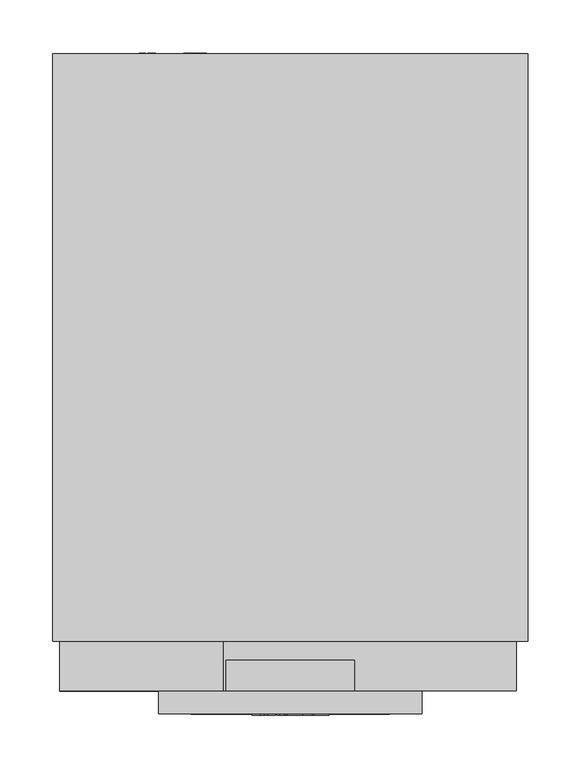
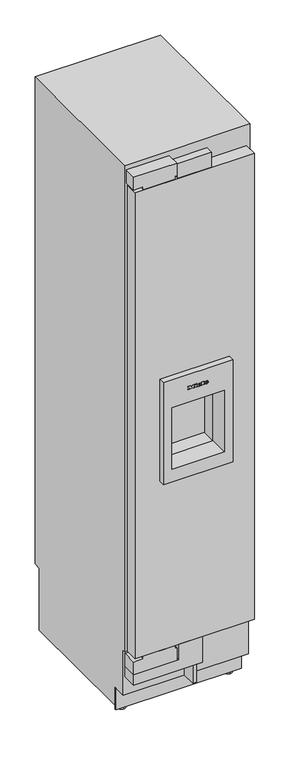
"""IFC4 building model written with IfcOpenShell, lengths in millimetres: proxy geometry, 11503430_USA_F2472Vi : 37247201_USA_11503430_F2472Vi."""

import ifcopenshell
import ifcopenshell.guid

model = None  # the IFC model being written
_history = None  # IfcOwnerHistory: only IFC2X3 demands one
_inside = {}  # id of a spatial element -> (the spatial element, [elements in it])
_under = {}  # id of a project, library or spatial element -> (it, [spatial elements below it])
_declared = {}  # id of a project -> (the project, [libraries it declares])
_typed = {}  # id of a type object -> (the type object, [elements of that type])
_made_of = {}  # id of a material, layer set ... -> (it, [elements and type objects made of it])


def new_model(schema):
    """Start an empty IFC model of exactly this schema.

    Asked for "IFC4X3", IfcOpenShell would pick the latest addendum, in which some entities
    have other attributes; the version numbers below select the first issue.
    IFC2X3 requires an IfcOwnerHistory on every rooted entity: one is made here for all.
    """
    global model, _history
    if schema == "IFC4X3":
        model = ifcopenshell.file(schema_version=(4, 3, 0, 0))
    else:
        model = ifcopenshell.file(schema=schema)
    _inside.clear()
    _under.clear()
    _declared.clear()
    _typed.clear()
    _made_of.clear()
    _history = None
    if model.schema == "IFC2X3":
        org = make("IfcOrganization", Name="unknown")
        user = make(
            "IfcPersonAndOrganization",
            ThePerson=make("IfcPerson", FamilyName="unknown"),
            TheOrganization=org,
        )
        app = make(
            "IfcApplication",
            ApplicationDeveloper=org,
            Version="unknown",
            ApplicationFullName="unknown",
            ApplicationIdentifier="unknown",
        )
        _history = make(
            "IfcOwnerHistory",
            OwningUser=user,
            OwningApplication=app,
            ChangeAction="ADDED",
            CreationDate=0,
        )
    return model


def make(cls, **values):
    """One entity of the class cls with the attributes given. An attribute that is None is left unset."""
    return model.create_entity(
        cls, **{name: value for name, value in values.items() if value is not None}
    )


def rooted(cls, **values):
    """An entity with a GlobalId (a new one), such as an element, a storey or a relation."""
    return make(cls, GlobalId=ifcopenshell.guid.new(), OwnerHistory=_history, **values)


def si_unit(unit_type, name, prefix=None):
    """IfcSIUnit, for example si_unit("LENGTHUNIT", "METRE", prefix="MILLI")."""
    return make("IfcSIUnit", UnitType=unit_type, Prefix=prefix, Name=name)


def assignment(units):
    """IfcUnitAssignment: the units of a project."""
    return None if units is None else make("IfcUnitAssignment", Units=units)


def point(xyz):
    """IfcCartesianPoint."""
    return None if xyz is None else make("IfcCartesianPoint", Coordinates=xyz)


def direction(xyz):
    """IfcDirection."""
    return None if xyz is None else make("IfcDirection", DirectionRatios=xyz)


def frame(location, z_axis=None, x_axis=None):
    """IfcAxis2Placement3D, a coordinate frame: its origin and axes. An axis left out is left unset."""
    return make(
        "IfcAxis2Placement3D",
        Location=point(location),
        Axis=direction(z_axis),
        RefDirection=direction(x_axis),
    )


def frame_2d(location, x_axis=None):
    """IfcAxis2Placement2D, a coordinate frame in the plane: its origin and x axis."""
    return make(
        "IfcAxis2Placement2D", Location=point(location), RefDirection=direction(x_axis)
    )


def origin():
    """The frame at (0, 0, 0) with its axes left unset."""
    return frame((0.0, 0.0, 0.0))


def place(relative_to, where):
    """IfcLocalPlacement: puts the frame where relative to a parent placement (None: the world)."""
    return make(
        "IfcLocalPlacement", PlacementRelTo=relative_to, RelativePlacement=where
    )


def context(
    kind, dimensions, precision=None, world=None, true_north=None, identifier=None
):
    """IfcGeometricRepresentationContext, for example the 3D "Model" context."""
    return make(
        "IfcGeometricRepresentationContext",
        ContextIdentifier=identifier,
        ContextType=kind,
        CoordinateSpaceDimension=dimensions,
        Precision=precision,
        WorldCoordinateSystem=world,
        TrueNorth=true_north,
    )


def project(units=None, contexts=None):
    """IfcProject with its units and contexts."""
    return rooted(
        "IfcProject",
        Name="project",
        RepresentationContexts=contexts,
        UnitsInContext=assignment(units),
    )


def spatial(cls, under=None, at=None, **own):
    """A site, building, storey or space (cls), placed at a placement, below another one or the project."""
    s = rooted(cls, ObjectPlacement=at, **own)
    if under is not None:
        _under.setdefault(under.id(), (under, []))[1].append(s)
    return s


def polyline(points):
    """IfcPolyline through the points."""
    return make("IfcPolyline", Points=[point(p) for p in points])


def circle_curve(where, radius):
    """IfcCircle in the frame where."""
    return make("IfcCircle", Position=where, Radius=radius)


def ellipse_curve(where, semi_axis1, semi_axis2):
    """IfcEllipse in the frame where."""
    return make(
        "IfcEllipse", Position=where, SemiAxis1=semi_axis1, SemiAxis2=semi_axis2
    )


def trimmed(basis, trim1, trim2, sense, master):
    """IfcTrimmedCurve: the piece of a basis curve between two trims."""
    return make(
        "IfcTrimmedCurve",
        BasisCurve=basis,
        Trim1=trim1,
        Trim2=trim2,
        SenseAgreement=sense,
        MasterRepresentation=master,
    )


def segment(curve, same_sense, transition):
    """IfcCompositeCurveSegment."""
    return make(
        "IfcCompositeCurveSegment",
        Transition=transition,
        SameSense=same_sense,
        ParentCurve=curve,
    )


def composite_curve(segments, self_intersect=None):
    """IfcCompositeCurve: segments joined end to end."""
    return make("IfcCompositeCurve", Segments=segments, SelfIntersect=self_intersect)


def outline(outer, holes=None, kind="AREA"):
    """IfcArbitraryClosedProfileDef: a profile drawn as a closed curve; with holes, ...WithVoids."""
    if holes is None:
        return make("IfcArbitraryClosedProfileDef", ProfileType=kind, OuterCurve=outer)
    return make(
        "IfcArbitraryProfileDefWithVoids",
        ProfileType=kind,
        OuterCurve=outer,
        InnerCurves=holes,
    )


def extrude(swept, where, along, depth):
    """IfcExtrudedAreaSolid: the profile swept, set in the frame where, extruded along a direction by depth."""
    return make(
        "IfcExtrudedAreaSolid",
        SweptArea=swept,
        Position=where,
        ExtrudedDirection=direction(along),
        Depth=depth,
    )


def faces_of(points, faces, orient=None, outer=None):
    """IfcFace entities. A face is a list of loops; a loop is a list of indices into points, from 0.

    orient and outer hold one flag for each loop. By default every Orientation is true, the
    first loop of a face is its IfcFaceOuterBound and the others are IfcFaceBound.
    """
    made = []
    for i, loops in enumerate(faces):
        bounds = []
        for j, loop in enumerate(loops):
            is_outer = j == 0 if outer is None else outer[i][j]
            bounds.append(
                make(
                    "IfcFaceOuterBound" if is_outer else "IfcFaceBound",
                    Bound=make("IfcPolyLoop", Polygon=[points[k] for k in loop]),
                    Orientation=True if orient is None else orient[i][j],
                )
            )
        made.append(make("IfcFace", Bounds=bounds))
    return made


def faceted_brep(points, faces, orient=None, outer=None, voids=None):
    """IfcFacetedBrep: a solid bounded by flat faces; with voids (closed shells), ...WithVoids."""
    shared = [point(p) for p in points]
    hull = make("IfcClosedShell", CfsFaces=faces_of(shared, faces, orient, outer))
    if voids is None:
        return make("IfcFacetedBrep", Outer=hull)
    return make(
        "IfcFacetedBrepWithVoids",
        Outer=hull,
        Voids=[
            make(cls, CfsFaces=faces_of(shared, fs, o, b)) for cls, fs, o, b in voids
        ],
    )


def shape(context_of_items, identifier, shape_type, items):
    """IfcShapeRepresentation: the items that make up one representation, for example the "Body"."""
    return make(
        "IfcShapeRepresentation",
        ContextOfItems=context_of_items,
        RepresentationIdentifier=identifier,
        RepresentationType=shape_type,
        Items=items,
    )


def source(mapping_origin, context_of_items, identifier, shape_type, items):
    """IfcRepresentationMap: a shape defined once, which mapped items show again and again."""
    return make(
        "IfcRepresentationMap",
        MappingOrigin=mapping_origin,
        MappedRepresentation=shape(context_of_items, identifier, shape_type, items),
    )


def transform(
    local_origin,
    x_axis=None,
    y_axis=None,
    z_axis=None,
    scale=None,
    scale2=None,
    scale3=None,
    uniform=True,
):
    """IfcCartesianTransformationOperator3D, or its non-uniform kind. x_axis, y_axis, z_axis: its Axis1, 2, 3."""
    if uniform:
        return make(
            "IfcCartesianTransformationOperator3D",
            Axis1=direction(x_axis),
            Axis2=direction(y_axis),
            LocalOrigin=point(local_origin),
            Scale=scale,
            Axis3=direction(z_axis),
        )
    return make(
        "IfcCartesianTransformationOperator3DnonUniform",
        Axis1=direction(x_axis),
        Axis2=direction(y_axis),
        LocalOrigin=point(local_origin),
        Scale=scale,
        Axis3=direction(z_axis),
        Scale2=scale2,
        Scale3=scale3,
    )


def mapped(mapping_source, mapping_target):
    """IfcMappedItem: shows the shape of a source again, moved by a transform."""
    return make(
        "IfcMappedItem", MappingSource=mapping_source, MappingTarget=mapping_target
    )


def made_of(thing, what):
    """Note that an element or type object is made of a material, layer set ...; save() writes the relation."""
    if what is not None:
        _made_of.setdefault(what.id(), (what, []))[1].append(thing)
    return thing


def element(
    cls,
    number,
    at=None,
    inside=None,
    cuts=None,
    type_object=None,
    material=None,
    context=None,
    identifier="Body",
    shape_type=None,
    held_by="IfcProductDefinitionShape",
    body=None,
    shapes=None,
    **own,
):
    """One element of the class cls, such as IfcWall. Its Tag is "e" and its number.

    at: its placement. inside: the storey or other place that contains it. cuts: it is an
    opening in that element (IfcRelVoidsElement). A single representation is given by context,
    identifier, shape_type and body (its items); several are given by shapes. held_by: the class
    of the entity that holds the representations. save() writes the other relations.
    """
    e = rooted(cls, Tag="e%d" % number, ObjectPlacement=at, **own)
    if body is not None:
        shapes = [shape(context, identifier, shape_type, body)]
    if shapes is not None:
        e.Representation = make(held_by, Representations=shapes)
    if inside is not None:
        _inside.setdefault(inside.id(), (inside, []))[1].append(e)
    if cuts is not None:
        rooted(
            "IfcRelVoidsElement", RelatingBuildingElement=cuts, RelatedOpeningElement=e
        )
    if type_object is not None:
        _typed.setdefault(type_object.id(), (type_object, []))[1].append(e)
    return made_of(e, material)


def aggregate(whole, parts):
    """IfcRelAggregates: a whole, such as a stair, and the parts it consists of."""
    return rooted("IfcRelAggregates", RelatingObject=whole, RelatedObjects=parts)


def save(model, path):
    """Write the relations noted so far, then the file.

    IfcRelAggregates (storeys below a building ...), IfcRelContainedInSpatialStructure (elements
    in a storey), IfcRelDefinesByType, IfcRelAssociatesMaterial and IfcRelDeclares: one each for
    every whole, place, type object, material and project.
    """
    for whole, parts in _under.values():
        aggregate(whole, parts)
    for where, things in _inside.values():
        rooted(
            "IfcRelContainedInSpatialStructure",
            RelatedElements=things,
            RelatingStructure=where,
        )
    for kind, things in _typed.values():
        rooted("IfcRelDefinesByType", RelatedObjects=things, RelatingType=kind)
    for what, things in _made_of.values():
        rooted("IfcRelAssociatesMaterial", RelatedObjects=things, RelatingMaterial=what)
    for by, libraries in _declared.values():
        rooted("IfcRelDeclares", RelatingContext=by, RelatedDefinitions=libraries)
    model.write(path)


def plane_surface(at):
    """IfcPlane: the flat surface through the origin of the frame at, square to its z axis."""
    return make("IfcPlane", Position=at)


def cylinder_surface(at, radius):
    """IfcCylindricalSurface: all points at the distance radius from the z axis of the frame at."""
    return make("IfcCylindricalSurface", Position=at, Radius=radius)


def revolved_surface(curve, axis_point, axis_direction):
    """IfcSurfaceOfRevolution: the curve turned about the line through axis_point along axis_direction."""
    return make(
        "IfcSurfaceOfRevolution",
        SweptCurve=make("IfcArbitraryOpenProfileDef", ProfileType="CURVE", Curve=curve),
        AxisPosition=make("IfcAxis1Placement", Location=point(axis_point), Axis=direction(axis_direction)),
    )


def extruded_surface(curve, direction_of_extrusion, depth):
    """IfcSurfaceOfLinearExtrusion: the curve pushed along a direction by depth."""
    return make(
        "IfcSurfaceOfLinearExtrusion",
        SweptCurve=make("IfcArbitraryOpenProfileDef", ProfileType="CURVE", Curve=curve),
        ExtrudedDirection=direction(direction_of_extrusion),
        Depth=depth,
    )


def advanced_brep(points, edges, surfaces, faces):
    """IfcAdvancedBrep: a solid bounded by faces that lie on surfaces and meet in shared edges.

    An edge is (start, end): straight between two places in points (the first is 0);
    or (start, end, curve); or (start, end, curve, False) where it runs against its curve.
    A face is (place in surfaces, loops), or (place, loops, False) where it looks against
    its surface's normal. A loop lists edges by number (the first is 1), with a minus sign
    where the edge is run from its end to its start. The first loop is the outer one.
    """
    corners = [point(p) for p in points]
    vertices = [make("IfcVertexPoint", VertexGeometry=c) for c in corners]
    made = []
    for start, end, *more in edges:
        made.append(
            make(
                "IfcEdgeCurve",
                EdgeStart=vertices[start],
                EdgeEnd=vertices[end],
                EdgeGeometry=more[0] if more else make("IfcPolyline", Points=[corners[start], corners[end]]),
                SameSense=more[1] if len(more) > 1 else True,
            )
        )
    hull = []
    for where, loops, *sense in faces:
        bounds = []
        for j, loop in enumerate(loops):
            ring = [make("IfcOrientedEdge", EdgeElement=made[abs(k) - 1], Orientation=k > 0) for k in loop]
            bounds.append(
                make(
                    "IfcFaceOuterBound" if j == 0 else "IfcFaceBound",
                    Bound=make("IfcEdgeLoop", EdgeList=ring),
                    Orientation=True,
                )
            )
        hull.append(make("IfcAdvancedFace", Bounds=bounds, FaceSurface=surfaces[where], SameSense=sense[0] if sense else True))
    return make("IfcAdvancedBrep", Outer=make("IfcClosedShell", CfsFaces=hull))


def specialty_equipment_33c10941(model_context):
    return source(origin(), model_context, "Body", "SolidModel", [
        extrude(outline(polyline([(-6.5, 54.0), (6.5, 54.0), (6.5, 0.0), (-6.5, 0.0), (-6.5, 54.0)])), frame((0.0, 0.0, 99.0), z_axis=(0.0, 0.0, 1.0), x_axis=(1.0, 0.0, 0.0)), (0.0, 0.0, 1.0), 67.0),
        faceted_brep([(125.0, -21.7, 1295.0), (-125.0, -21.7, 1295.0), (-125.0, -21.7, 908.0), (125.0, -21.7, 908.0), (94.0, -21.7, 1190.0), (94.0, -21.7, 956.0), (-94.0, -21.7, 956.0), (-94.0, -21.7, 1190.0), (125.0, 47.0, 1295.0), (125.0, 47.0, 908.0), (-125.0, 47.0, 908.0), (-125.0, 47.0, 1295.0), (94.0, 47.0, 1190.0), (-94.0, 47.0, 1190.0), (-94.0, 47.0, 956.0), (94.0, 47.0, 956.0), (-94.0, -11.7943775, 1190.0), (94.0, -11.7943775, 1190.0), (-94.0, -11.7943775, 956.0), (94.0, -11.7943775, 956.0)], [[[0, 1, 2, 3], [4, 5, 6, 7]], [[8, 9, 10, 11], [12, 13, 14, 15]], [[0, 3, 9, 8]], [[3, 2, 10, 9]], [[2, 1, 11, 10]], [[1, 0, 8, 11]], [[4, 7, 16, 13, 12, 17]], [[7, 6, 18, 14, 13, 16]], [[6, 5, 19, 15, 14, 18]], [[5, 4, 17, 12, 15, 19]]]),
        extrude(outline(polyline([(2036.0, 214.5), (2036.0, -214.5), (265.0, -214.5), (265.0, 214.5), (2036.0, 214.5)]), holes=[polyline([(1295.0, 125.0), (908.0, 125.0), (908.0, -125.0), (1295.0, -125.0), (1295.0, 125.0)])]), frame((0.0, 0.0, 0.0), z_axis=(0.0, 1.0, 0.0), x_axis=(0.0, 0.0, 1.0)), (0.0, 0.0, 1.0), 47.0),
        faceted_brep([(-158.0, 47.0, 863.0), (-158.0, 47.0, 1335.0), (-158.0, 239.0, 1335.0), (-158.0, 239.0, 987.0), (-158.0, 140.0, 863.0), (158.0, 47.0, 863.0), (158.0, 140.0, 863.0), (158.0, 239.0, 987.0), (158.0, 239.0, 1335.0), (158.0, 47.0, 1335.0), (94.0, 47.0, 1190.0), (94.0, 47.0, 956.0), (-94.0, 47.0, 956.0), (-94.0, 47.0, 1190.0), (94.0, 100.0, 1190.0), (-94.0, 100.0, 1190.0), (-94.0, 100.0, 956.0), (94.0, 100.0, 956.0)], [[[0, 1, 2, 3, 4]], [[5, 6, 7, 8, 9]], [[0, 4, 6, 5]], [[4, 3, 7, 6]], [[3, 2, 8, 7]], [[2, 1, 9, 8]], [[1, 0, 5, 9], [10, 11, 12, 13]], [[14, 15, 16, 17]], [[14, 17, 11, 10]], [[17, 16, 12, 11]], [[16, 15, 13, 12]], [[15, 14, 10, 13]]]),
        extrude(outline(polyline([(-61.0, 29.0), (61.0, 29.0), (61.0, 0.0), (-61.0, 0.0), (-61.0, 29.0)])), frame((0.0, 0.0, 2036.0), z_axis=(0.0, 0.0, 1.0), x_axis=(1.0, 0.0, 0.0)), (0.0, 0.0, 1.0), 56.0),
        advanced_brep(
        [(28.472, -22.7, 1241.344), (28.472, -22.7, 1242.556), (36.5, -22.7, 1242.556), (22.532, -22.7, 1242.556), (25.832, -22.7, 1238.5), (36.296, -22.7, 1241.344), (32.672, -22.7, 1241.344), (29.816, -22.7, 1240.0), (28.472, -22.7, 1244.092), (28.472, -22.7, 1245.4), (30.524, -22.7, 1245.4), (30.524, -22.7, 1244.092), (28.472, -21.7, 1241.344), (29.816, -21.7, 1240.0), (32.672, -21.7, 1241.344), (36.296, -21.7, 1241.344), (25.832, -21.7, 1238.5), (22.532, -21.7, 1242.556), (36.5, -21.7, 1242.556), (28.472, -21.7, 1242.556), (28.472, -21.7, 1244.092), (30.524, -21.7, 1244.092), (30.524, -21.7, 1245.4), (28.472, -21.7, 1245.4)],
        [
            (0, 1),
            (1, 2),
            (2, 3, ellipse_curve(frame((29.516, -22.7, 1242.556), z_axis=(0.0, -1.0, 0.0), x_axis=(-1.0, 0.0, 0.0)), 6.984, 5.772)),
            (3, 4, circle_curve(frame((27.1760655, -22.7, 1242.964), z_axis=(0.0, -1.0, 0.0), x_axis=(0.0, 0.0, -1.0)), 4.6619532)),
            (4, 5, circle_curve(frame((29.3761904, -22.7, 1246.132), z_axis=(0.0, -1.0, 0.0), x_axis=(0.0, 0.0, -1.0)), 8.4147911)),
            (5, 6),
            (6, 7, circle_curve(frame((30.4025882, -22.7, 1242.46), z_axis=(0.0, 1.0, 0.0), x_axis=(0.0, 0.0, -1.0)), 2.5289693)),
            (7, 0, circle_curve(frame((29.816, -22.7, 1241.344), z_axis=(0.0, 1.0, 0.0), x_axis=(0.0, 0.0, -1.0)), 1.344)),
            (8, 9),
            (9, 10, circle_curve(frame((29.498, -22.7, 1245.4), z_axis=(0.0, 1.0, 0.0), x_axis=(0.0, 0.0, -1.0)), 1.026)),
            (10, 11),
            (11, 8),
            (12, 13, circle_curve(frame((29.816, -21.7, 1241.344), z_axis=(0.0, -1.0, 0.0), x_axis=(0.0, 0.0, -1.0)), 1.344)),
            (13, 14, circle_curve(frame((30.4025882, -21.7, 1242.46), z_axis=(0.0, -1.0, 0.0), x_axis=(0.0, 0.0, -1.0)), 2.5289693)),
            (14, 15),
            (15, 16, circle_curve(frame((29.3761904, -21.7, 1246.132), z_axis=(0.0, 1.0, 0.0), x_axis=(0.0, 0.0, -1.0)), 8.4147911)),
            (16, 17, circle_curve(frame((27.1760655, -21.7, 1242.964), z_axis=(0.0, 1.0, 0.0), x_axis=(0.0, 0.0, -1.0)), 4.6619532)),
            (17, 18, ellipse_curve(frame((29.516, -21.7, 1242.556), z_axis=(0.0, 1.0, 0.0), x_axis=(-1.0, 0.0, 0.0)), 6.984, 5.772)),
            (18, 19),
            (19, 12),
            (20, 21),
            (21, 22),
            (22, 23, circle_curve(frame((29.498, -21.7, 1245.4), z_axis=(0.0, -1.0, 0.0), x_axis=(0.0, 0.0, -1.0)), 1.026)),
            (23, 20),
            (0, 12),
            (19, 1),
            (18, 2),
            (5, 15),
            (14, 6),
            (17, 3),
            (13, 7),
            (16, 4),
            (8, 20),
            (23, 9),
            (22, 10),
            (21, 11),
        ],
        [
            plane_surface(frame((28.472, -22.7, 1242.556), z_axis=(0.0, -1.0, 0.0), x_axis=(0.0, 0.0, 1.0))),
            plane_surface(frame((28.472, -21.7, 1242.556), z_axis=(0.0, 1.0, 0.0), x_axis=(0.0, 0.0, -1.0))),
            plane_surface(frame((28.472, -22.7, 1241.344), z_axis=(1.0, 0.0, 0.0), x_axis=(0.0, 1.0, 0.0))),
            plane_surface(frame((28.472, -22.7, 1242.556), z_axis=(0.0, 0.0, -1.0), x_axis=(0.0, 1.0, 0.0))),
            plane_surface(frame((36.296, -22.7, 1241.344), z_axis=(0.0, 0.0, 1.0), x_axis=(0.0, 1.0, 0.0))),
            extruded_surface(trimmed(ellipse_curve(frame((29.516, -20.7, 1242.556), z_axis=(0.0, -1.0, 0.0), x_axis=(-1.0, 0.0, 0.0)), 6.984, 5.772), [point((36.5, -20.7, 1242.556))], [point((22.532, -20.7, 1242.556))], True, "CARTESIAN"), (0.0, -1.0, 0.0), 1.0),
            revolved_surface(polyline([(30.4025882, -21.7, 1239.9310307), (30.4025882, -22.7, 1239.9310307)]), (30.4025882, -21.7, 1242.46), (0.0, 1.0, 0.0)),
            revolved_surface(polyline([(29.816, -21.7, 1240.0), (29.816, -22.7, 1240.0)]), (29.816, -21.7, 1241.344), (0.0, 1.0, 0.0)),
            cylinder_surface(frame((27.1760655, -21.7, 1242.964), z_axis=(0.0, -1.0, 0.0), x_axis=(0.0, 0.0, -1.0)), 4.6619532),
            cylinder_surface(frame((29.3761904, -21.7, 1246.132), z_axis=(0.0, -1.0, 0.0), x_axis=(0.0, 0.0, -1.0)), 8.4147911),
            plane_surface(frame((28.472, -22.7, 1244.092), z_axis=(1.0, 0.0, 0.0), x_axis=(0.0, 1.0, 0.0))),
            revolved_surface(polyline([(29.498, -21.7, 1244.374), (29.498, -22.7, 1244.374)]), (29.498, -21.7, 1245.4), (0.0, 1.0, 0.0)),
            plane_surface(frame((30.524, -22.7, 1245.4), z_axis=(-1.0, 0.0, 0.0), x_axis=(0.0, 1.0, 0.0))),
            plane_surface(frame((30.524, -22.7, 1244.092), z_axis=(0.0, 0.0, 1.0), x_axis=(0.0, 1.0, 0.0))),
        ],
        [
            (0, [[1, 2, 3, 4, 5, 6, 7, 8], [9, 10, 11, 12]]),
            (1, [[13, 14, 15, 16, 17, 18, 19, 20], [21, 22, 23, 24]]),
            (2, [[-1, 25, -20, 26]]),
            (3, [[-2, -26, -19, 27]]),
            (4, [[-6, 28, -15, 29]]),
            (5, [[-3, -27, -18, 30]]),
            (6, [[-7, -29, -14, 31]]),
            (7, [[-8, -31, -13, -25]]),
            (8, [[-4, -30, -17, 32]]),
            (9, [[-5, -32, -16, -28]]),
            (10, [[-9, 33, -24, 34]]),
            (11, [[-10, -34, -23, 35]]),
            (12, [[-11, -35, -22, 36]]),
            (13, [[-12, -36, -21, -33]]),
        ],
    ),
        advanced_brep(
        [(3.428, -22.7, 1241.344), (3.428, -22.7, 1242.556), (11.456, -22.7, 1242.556), (-2.512, -22.7, 1242.556), (0.788, -22.7, 1238.5), (11.252, -22.7, 1241.344), (7.628, -22.7, 1241.344), (4.772, -22.7, 1240.0), (3.428, -22.7, 1244.092), (3.428, -22.7, 1245.4), (5.48, -22.7, 1245.4), (5.48, -22.7, 1244.092), (3.428, -21.7, 1241.344), (4.772, -21.7, 1240.0), (7.628, -21.7, 1241.344), (11.252, -21.7, 1241.344), (0.788, -21.7, 1238.5), (-2.512, -21.7, 1242.556), (11.456, -21.7, 1242.556), (3.428, -21.7, 1242.556), (3.428, -21.7, 1244.092), (5.48, -21.7, 1244.092), (5.48, -21.7, 1245.4), (3.428, -21.7, 1245.4)],
        [
            (0, 1),
            (1, 2),
            (2, 3, ellipse_curve(frame((4.472, -22.7, 1242.556), z_axis=(0.0, -1.0, 0.0), x_axis=(-1.0, 0.0, 0.0)), 6.984, 5.772)),
            (3, 4, circle_curve(frame((2.1320655, -22.7, 1242.964), z_axis=(0.0, -1.0, 0.0), x_axis=(0.0, 0.0, -1.0)), 4.6619532)),
            (4, 5, circle_curve(frame((4.3321904, -22.7, 1246.132), z_axis=(0.0, -1.0, 0.0), x_axis=(0.0, 0.0, -1.0)), 8.4147911)),
            (5, 6),
            (6, 7, circle_curve(frame((5.3585882, -22.7, 1242.46), z_axis=(0.0, 1.0, 0.0), x_axis=(0.0, 0.0, -1.0)), 2.5289693)),
            (7, 0, circle_curve(frame((4.772, -22.7, 1241.344), z_axis=(0.0, 1.0, 0.0), x_axis=(0.0, 0.0, -1.0)), 1.344)),
            (8, 9),
            (9, 10, circle_curve(frame((4.454, -22.7, 1245.4), z_axis=(0.0, 1.0, 0.0), x_axis=(0.0, 0.0, -1.0)), 1.026)),
            (10, 11),
            (11, 8),
            (12, 13, circle_curve(frame((4.772, -21.7, 1241.344), z_axis=(0.0, -1.0, 0.0), x_axis=(0.0, 0.0, -1.0)), 1.344)),
            (13, 14, circle_curve(frame((5.3585882, -21.7, 1242.46), z_axis=(0.0, -1.0, 0.0), x_axis=(0.0, 0.0, -1.0)), 2.5289693)),
            (14, 15),
            (15, 16, circle_curve(frame((4.3321904, -21.7, 1246.132), z_axis=(0.0, 1.0, 0.0), x_axis=(0.0, 0.0, -1.0)), 8.4147911)),
            (16, 17, circle_curve(frame((2.1320655, -21.7, 1242.964), z_axis=(0.0, 1.0, 0.0), x_axis=(0.0, 0.0, -1.0)), 4.6619532)),
            (17, 18, ellipse_curve(frame((4.472, -21.7, 1242.556), z_axis=(0.0, 1.0, 0.0), x_axis=(-1.0, 0.0, 0.0)), 6.984, 5.772)),
            (18, 19),
            (19, 12),
            (20, 21),
            (21, 22),
            (22, 23, circle_curve(frame((4.454, -21.7, 1245.4), z_axis=(0.0, -1.0, 0.0), x_axis=(0.0, 0.0, -1.0)), 1.026)),
            (23, 20),
            (0, 12),
            (19, 1),
            (18, 2),
            (5, 15),
            (14, 6),
            (17, 3),
            (13, 7),
            (16, 4),
            (8, 20),
            (23, 9),
            (22, 10),
            (21, 11),
        ],
        [
            plane_surface(frame((3.428, -22.7, 1242.556), z_axis=(0.0, -1.0, 0.0), x_axis=(0.0, 0.0, 1.0))),
            plane_surface(frame((3.428, -21.7, 1242.556), z_axis=(0.0, 1.0, 0.0), x_axis=(0.0, 0.0, -1.0))),
            plane_surface(frame((3.428, -22.7, 1241.344), z_axis=(1.0, 0.0, 0.0), x_axis=(0.0, 1.0, 0.0))),
            plane_surface(frame((3.428, -22.7, 1242.556), z_axis=(0.0, 0.0, -1.0), x_axis=(0.0, 1.0, 0.0))),
            plane_surface(frame((11.252, -22.7, 1241.344), z_axis=(0.0, 0.0, 1.0), x_axis=(0.0, 1.0, 0.0))),
            extruded_surface(trimmed(ellipse_curve(frame((4.472, -20.7, 1242.556), z_axis=(0.0, -1.0, 0.0), x_axis=(-1.0, 0.0, 0.0)), 6.984, 5.772), [point((11.456, -20.7, 1242.556))], [point((-2.512, -20.7, 1242.556))], True, "CARTESIAN"), (0.0, -1.0, 0.0), 1.0),
            revolved_surface(polyline([(5.3585882, -21.7, 1239.9310307), (5.3585882, -22.7, 1239.9310307)]), (5.3585882, -21.7, 1242.46), (0.0, 1.0, 0.0)),
            revolved_surface(polyline([(4.772, -21.7, 1240.0), (4.772, -22.7, 1240.0)]), (4.772, -21.7, 1241.344), (0.0, 1.0, 0.0)),
            cylinder_surface(frame((2.1320655, -21.7, 1242.964), z_axis=(0.0, -1.0, 0.0), x_axis=(0.0, 0.0, -1.0)), 4.6619532),
            cylinder_surface(frame((4.3321904, -21.7, 1246.132), z_axis=(0.0, -1.0, 0.0), x_axis=(0.0, 0.0, -1.0)), 8.4147911),
            plane_surface(frame((3.428, -22.7, 1244.092), z_axis=(1.0, 0.0, 0.0), x_axis=(0.0, 1.0, 0.0))),
            revolved_surface(polyline([(4.454, -21.7, 1244.374), (4.454, -22.7, 1244.374)]), (4.454, -21.7, 1245.4), (0.0, 1.0, 0.0)),
            plane_surface(frame((5.48, -22.7, 1245.4), z_axis=(-1.0, 0.0, 0.0), x_axis=(0.0, 1.0, 0.0))),
            plane_surface(frame((5.48, -22.7, 1244.092), z_axis=(0.0, 0.0, 1.0), x_axis=(0.0, 1.0, 0.0))),
        ],
        [
            (0, [[1, 2, 3, 4, 5, 6, 7, 8], [9, 10, 11, 12]]),
            (1, [[13, 14, 15, 16, 17, 18, 19, 20], [21, 22, 23, 24]]),
            (2, [[-1, 25, -20, 26]]),
            (3, [[-2, -26, -19, 27]]),
            (4, [[-6, 28, -15, 29]]),
            (5, [[-3, -27, -18, 30]]),
            (6, [[-7, -29, -14, 31]]),
            (7, [[-8, -31, -13, -25]]),
            (8, [[-4, -30, -17, 32]]),
            (9, [[-5, -32, -16, -28]]),
            (10, [[-9, 33, -24, 34]]),
            (11, [[-10, -34, -23, 35]]),
            (12, [[-11, -35, -22, 36]]),
            (13, [[-12, -36, -21, -33]]),
        ],
    ),
        extrude(outline(polyline([(1249.792, -9.688), (1247.848, -8.776), (1249.744, -4.708), (1251.688, -5.608), (1249.792, -9.688)])), frame((0.0, -22.7, 0.0), z_axis=(0.0, 1.0, 0.0), x_axis=(0.0, 0.0, 1.0)), (0.0, 0.0, 1.0), 1.0),
        extrude(outline(polyline([(1247.584, -12.652), (1245.436, -12.652), (1245.436, -11.224), (1240.516, -11.224), (1240.516, -12.652), (1238.5, -12.652), (1238.5, -3.184), (1240.516, -3.184), (1240.516, -4.576), (1247.584, -4.576), (1247.584, -12.652)])), frame((0.0, -22.7, 0.0), z_axis=(0.0, 1.0, 0.0), x_axis=(0.0, 0.0, 1.0)), (0.0, 0.0, 1.0), 1.0),
        extrude(outline(polyline([(1248.544, 12.128), (1248.544, 13.568), (1240.516, 13.568), (1240.516, 12.128), (1238.5, 12.128), (1238.5, 21.86), (1240.516, 21.86), (1240.516, 20.384), (1250.5, 20.384), (1250.5, 12.128), (1248.544, 12.128)])), frame((0.0, -22.7, 0.0), z_axis=(0.0, 1.0, 0.0), x_axis=(0.0, 0.0, 1.0)), (0.0, 0.0, 1.0), 1.0),
        extrude(outline(polyline([(1248.544, -36.568), (1248.544, -35.116), (1240.516, -35.116), (1240.516, -36.568), (1238.5, -36.568), (1238.5, -31.288), (1240.516, -31.288), (1240.516, -32.728), (1245.5951247, -32.728), (1238.5, -27.364), (1245.8152223, -21.976), (1240.516, -21.976), (1240.516, -23.452), (1238.5, -23.452), (1238.5, -13.876), (1240.516, -13.876), (1240.516, -15.4), (1248.544, -15.4), (1248.544, -13.876), (1250.5, -13.876), (1250.5, -21.184), (1246.0, -24.688), (1250.5, -28.204), (1250.5, -36.568), (1248.544, -36.568)])), frame((0.0, -22.7, 0.0), z_axis=(0.0, 1.0, 0.0), x_axis=(0.0, 0.0, 1.0)), (0.0, 0.0, 1.0), 1.0),
        extrude(outline(polyline([(519.0, 1998.0), (519.0, 1799.0), (447.0526316, 1799.0), (422.0, 1867.0), (201.7448904, 1867.0), (157.0, 1939.0), (87.0, 1949.0), (87.0, 1998.0), (519.0, 1998.0)])), frame((-179.5, 0.0, 0.0), z_axis=(1.0, 0.0, 0.0), x_axis=(0.0, 1.0, 0.0)), (0.0, 0.0, 1.0), 359.0),
        extrude(outline(polyline([(196.9886114, 1875.0), (195.809433, 1875.0), (158.6921935, 1934.4), (159.8713719, 1934.4), (196.9886114, 1875.0)])), frame((-69.0, 0.0, 0.0), z_axis=(1.0, 0.0, 0.0), x_axis=(0.0, 1.0, 0.0)), (0.0, 0.0, 1.0), 138.0),
        extrude(outline(polyline([(46.0510837, -89.101717), (37.4134902, -91.1745179), (46.0453554, -93.6868463), (46.0453554, -95.5601414), (37.4089549, -98.0799633), (46.0493903, -100.1581876), (46.0493903, -101.4649805), (36.0005458, -98.7156324), (36.0005458, -97.372208), (44.8261022, -94.6342221), (35.9987467, -92.0620509), (35.9987287, -90.5451466), (46.0510837, -87.800191), (46.0510837, -89.101717)])), frame((0.0, 604.0, 0.0), z_axis=(0.0, 1.0, 0.0), x_axis=(0.0, 0.0, 1.0)), (0.0, 0.0, 1.0), 1.0),
        extrude(outline(polyline([(46.0485238, -80.7401503), (41.1363122, -80.7401503), (46.0468162, -85.884602), (46.0468162, -87.6328316), (41.9156889, -83.3260313), (36.000035, -87.8032231), (36.000035, -86.2795519), (41.0742849, -82.4391666), (39.4525334, -80.7395503), (35.9999292, -80.7395503), (35.9999292, -79.4795491), (46.0485238, -79.4795491), (46.0485238, -80.7401503)])), frame((0.0, 604.0, 0.0), z_axis=(0.0, 1.0, 0.0), x_axis=(0.0, 0.0, 1.0)), (0.0, 0.0, 1.0), 1.0),
        extrude(outline(composite_curve([segment(trimmed(circle_curve(frame_2d((41.0, -90.0)), 7.5), [point((33.5, -90.0))], [point((48.5, -90.0))], False, "CARTESIAN"), True, "CONTINUOUS"), segment(trimmed(circle_curve(frame_2d((41.0, -90.0)), 7.5), [point((48.5, -90.0))], [point((33.5, -90.0))], False, "CARTESIAN"), True, "CONTINUOUS")], self_intersect=False)), frame((0.0, 577.0, 0.0), z_axis=(0.0, 1.0, 0.0), x_axis=(0.0, 0.0, 1.0)), (0.0, 0.0, 1.0), 27.0),
        extrude(outline(polyline([(2095.0, -219.0), (2047.0, -219.0), (2047.0, -185.0), (2036.5, -185.0), (2036.5, -70.0), (2047.0, -70.0), (2047.0, -64.0), (2095.0, -64.0), (2095.0, -219.0)])), frame((0.0, 0.0, 0.0), z_axis=(0.0, 1.0, 0.0), x_axis=(0.0, 0.0, 1.0)), (0.0, 0.0, 1.0), 47.0),
        extrude(outline(polyline([(254.0, -219.0), (206.0, -219.0), (206.0, -64.0), (254.0, -64.0), (254.0, -70.0), (264.0, -70.0), (264.0, -185.0), (254.0, -185.0), (254.0, -219.0)])), frame((0.0, 0.0, 0.0), z_axis=(0.0, 1.0, 0.0), x_axis=(0.0, 0.0, 1.0)), (0.0, 0.0, 1.0), 54.0),
        extrude(outline(polyline([(265.0, -55.5), (205.0, -55.5), (205.0, -219.0), (166.0, -219.0), (166.0, 28.5), (265.0, 28.5), (265.0, -55.5)])), frame((0.0, 0.0, 0.0), z_axis=(0.0, 1.0, 0.0), x_axis=(0.0, 0.0, 1.0)), (0.0, 0.0, 1.0), 54.0),
        extrude(outline(polyline([(99.0373308, -135.2645771), (97.7615342, -135.2645771), (97.7615342, -129.3195541), (94.7968516, -129.3195541), (94.7968516, -134.969579), (93.5246295, -134.969579), (93.5246295, -129.3415693), (90.2570046, -129.3415693), (90.2570046, -135.4619689), (88.9546219, -135.4619689), (88.9546219, -128.0443524), (99.0373308, -128.0443524), (99.0373308, -135.2645771)])), frame((0.0, 604.0, 0.0), z_axis=(0.0, 1.0, 0.0), x_axis=(0.0, 0.0, 1.0)), (0.0, 0.0, 1.0), 1.0),
        extrude(outline(polyline([(99.0458, -138.5619704), (90.2663944, -138.5619704), (90.2663944, -143.6145879), (89.0134802, -143.6145879), (89.0134802, -137.3423809), (99.0458, -137.3423809), (99.0458, -138.5619704)])), frame((0.0, 604.0, 0.0), z_axis=(0.0, 1.0, 0.0), x_axis=(0.0, 0.0, 1.0)), (0.0, 0.0, 1.0), 1.0),
        extrude(outline(composite_curve([segment(trimmed(circle_curve(frame_2d((94.0, -135.5)), 7.5), [point((86.5, -135.5))], [point((101.5, -135.5))], False, "CARTESIAN"), True, "CONTINUOUS"), segment(trimmed(circle_curve(frame_2d((94.0, -135.5)), 7.5), [point((101.5, -135.5))], [point((86.5, -135.5))], False, "CARTESIAN"), True, "CONTINUOUS")], self_intersect=False)), frame((0.0, 577.0, 0.0), z_axis=(0.0, 1.0, 0.0), x_axis=(0.0, 0.0, 1.0)), (0.0, 0.0, 1.0), 27.0),
        extrude(outline(polyline([(-225.5, 104.0), (225.5, 104.0), (225.5, 99.0), (-225.5, 99.0), (-225.5, 104.0)])), frame((0.0, 0.0, 14.0), z_axis=(0.0, 0.0, 1.0), x_axis=(1.0, 0.0, 0.0)), (0.0, 0.0, 1.0), 83.0),
        advanced_brep(
        [(-191.5, 139.0, 0.0), (-191.5, 109.0, 0.0), (-191.5, 139.0, 7.0), (-191.5, 109.0, 7.0), (-191.5, 128.7, 7.0), (-191.5, 119.3, 7.0), (-191.5, 128.7, 28.0), (-191.5, 119.3, 28.0)],
        [
            (0, 1, circle_curve(frame((-191.5, 124.0, 0.0), z_axis=(0.0, 0.0, -1.0), x_axis=(1.0, 0.0, 0.0)), 15.0)),
            (1, 0, circle_curve(frame((-191.5, 124.0, 0.0), z_axis=(0.0, 0.0, -1.0), x_axis=(1.0, 0.0, 0.0)), 15.0)),
            (2, 3, circle_curve(frame((-191.5, 124.0, 7.0), z_axis=(0.0, 0.0, 1.0), x_axis=(1.0, 0.0, 0.0)), 15.0)),
            (3, 2, circle_curve(frame((-191.5, 124.0, 7.0), z_axis=(0.0, 0.0, 1.0), x_axis=(1.0, 0.0, 0.0)), 15.0)),
            (4, 5, circle_curve(frame((-191.5, 124.0, 7.0), z_axis=(0.0, 0.0, -1.0), x_axis=(0.0, -1.0, 0.0)), 4.7)),
            (5, 4, circle_curve(frame((-191.5, 124.0, 7.0), z_axis=(0.0, 0.0, -1.0), x_axis=(0.0, -1.0, 0.0)), 4.7)),
            (0, 2),
            (3, 1),
            (6, 7, circle_curve(frame((-191.5, 124.0, 28.0), z_axis=(0.0, 0.0, 1.0), x_axis=(0.0, -1.0, 0.0)), 4.7)),
            (7, 6, circle_curve(frame((-191.5, 124.0, 28.0), z_axis=(0.0, 0.0, 1.0), x_axis=(0.0, -1.0, 0.0)), 4.7)),
            (7, 5),
            (4, 6),
        ],
        [
            plane_surface(frame((-176.5, 124.0, 0.0), z_axis=(0.0, 0.0, -1.0), x_axis=(0.0, -1.0, 0.0))),
            plane_surface(frame((-176.5, 124.0, 7.0), z_axis=(0.0, 0.0, 1.0), x_axis=(0.0, 1.0, 0.0))),
            cylinder_surface(frame((-191.5, 124.0, 7.0), z_axis=(0.0, 0.0, -1.0), x_axis=(1.0, 0.0, 0.0)), 15.0),
            plane_surface(frame((-191.5, 119.3, 28.0), z_axis=(0.0, 0.0, 1.0), x_axis=(1.0, 0.0, 0.0))),
            cylinder_surface(frame((-191.5, 124.0, 28.0), z_axis=(0.0, 0.0, -1.0), x_axis=(0.0, -1.0, 0.0)), 4.7),
        ],
        [
            (0, [[1, 2]]),
            (1, [[3, 4], [5, 6]]),
            (2, [[-1, 7, -4, 8]]),
            (2, [[-2, -8, -3, -7]]),
            (3, [[9, 10]]),
            (4, [[-10, 11, -5, 12]]),
            (4, [[-9, -12, -6, -11]]),
        ],
    ),
        advanced_brep(
        [(191.5, 139.0, 0.0), (191.5, 109.0, 0.0), (191.5, 139.0, 7.0), (191.5, 109.0, 7.0), (191.5, 128.7, 7.0), (191.5, 119.3, 7.0), (191.5, 128.7, 28.0), (191.5, 119.3, 28.0)],
        [
            (0, 1, circle_curve(frame((191.5, 124.0, 0.0), z_axis=(0.0, 0.0, -1.0), x_axis=(1.0, 0.0, 0.0)), 15.0)),
            (1, 0, circle_curve(frame((191.5, 124.0, 0.0), z_axis=(0.0, 0.0, -1.0), x_axis=(1.0, 0.0, 0.0)), 15.0)),
            (2, 3, circle_curve(frame((191.5, 124.0, 7.0), z_axis=(0.0, 0.0, 1.0), x_axis=(1.0, 0.0, 0.0)), 15.0)),
            (3, 2, circle_curve(frame((191.5, 124.0, 7.0), z_axis=(0.0, 0.0, 1.0), x_axis=(1.0, 0.0, 0.0)), 15.0)),
            (4, 5, circle_curve(frame((191.5, 124.0, 7.0), z_axis=(0.0, 0.0, -1.0), x_axis=(0.0, -1.0, 0.0)), 4.7)),
            (5, 4, circle_curve(frame((191.5, 124.0, 7.0), z_axis=(0.0, 0.0, -1.0), x_axis=(0.0, -1.0, 0.0)), 4.7)),
            (0, 2),
            (3, 1),
            (6, 7, circle_curve(frame((191.5, 124.0, 28.0), z_axis=(0.0, 0.0, 1.0), x_axis=(0.0, -1.0, 0.0)), 4.7)),
            (7, 6, circle_curve(frame((191.5, 124.0, 28.0), z_axis=(0.0, 0.0, 1.0), x_axis=(0.0, -1.0, 0.0)), 4.7)),
            (7, 5),
            (4, 6),
        ],
        [
            plane_surface(frame((-176.5, 124.0, 0.0), z_axis=(0.0, 0.0, -1.0), x_axis=(0.0, -1.0, 0.0))),
            plane_surface(frame((-176.5, 124.0, 7.0), z_axis=(0.0, 0.0, 1.0), x_axis=(0.0, 1.0, 0.0))),
            cylinder_surface(frame((191.5, 124.0, 7.0), z_axis=(0.0, 0.0, -1.0), x_axis=(1.0, 0.0, 0.0)), 15.0),
            plane_surface(frame((-191.5, 119.3, 28.0), z_axis=(0.0, 0.0, 1.0), x_axis=(1.0, 0.0, 0.0))),
            cylinder_surface(frame((191.5, 124.0, 28.0), z_axis=(0.0, 0.0, -1.0), x_axis=(0.0, -1.0, 0.0)), 4.7),
        ],
        [
            (0, [[1, 2]]),
            (1, [[3, 4], [5, 6]]),
            (2, [[-1, 7, -4, 8]]),
            (2, [[-2, -8, -3, -7]]),
            (3, [[9, 10]]),
            (4, [[-10, 11, -5, 12]]),
            (4, [[-9, -12, -6, -11]]),
        ],
    ),
        advanced_brep(
        [(225.5, 47.0, 2114.0), (225.5, 47.0, 267.0), (225.5, 54.0, 267.0), (225.5, 54.0, 97.0), (225.5, 104.0, 97.0), (225.5, 104.0, 28.0), (225.5, 577.0, 28.0), (225.5, 577.0, 263.0), (225.5, 604.0, 263.0), (225.5, 604.0, 2114.0), (-225.5, 47.0, 2114.0), (-225.5, 604.0, 2114.0), (-225.5, 604.0, 263.0), (-225.5, 577.0, 263.0), (-225.5, 577.0, 28.0), (-225.5, 104.0, 28.0), (-225.5, 104.0, 97.0), (-225.5, 54.0, 97.0), (-225.5, 54.0, 267.0), (-225.5, 47.0, 267.0), (165.5, 577.0, 28.0), (165.5, 577.0, 14.0), (-165.5, 577.0, 14.0), (-165.5, 577.0, 28.0), (165.5, 104.0, 14.0), (-165.5, 104.0, 14.0), (-165.5, 104.0, 28.0), (165.5, 104.0, 28.0), (179.5, 47.0, 1998.0), (179.5, 47.0, 343.0), (-179.5, 47.0, 343.0), (-179.5, 47.0, 1998.0), (179.5, 519.0, 1998.0), (-179.5, 519.0, 1998.0), (-179.5, 519.0, 343.0), (179.5, 519.0, 343.0), (-184.0, 202.8193473, 28.0), (-203.0, 202.8193473, 28.0), (-203.0, 153.1806527, 28.0), (-184.0, 153.1806527, 28.0), (-203.5, 525.8193473, 28.0), (-203.5, 476.1806527, 28.0), (-187.5, 476.1806527, 28.0), (-187.5, 525.8193473, 28.0), (203.0, 153.1806527, 28.0), (203.0, 202.8193473, 28.0), (184.0, 202.8193473, 28.0), (184.0, 153.1806527, 28.0), (187.5, 525.8193473, 28.0), (187.5, 476.1806527, 28.0), (203.5, 476.1806527, 28.0), (203.5, 525.8193473, 28.0), (-184.0, 203.0, 25.0), (-184.0, 153.0, 25.0), (-203.0, 153.0, 25.0), (-203.0, 203.0, 25.0), (-184.0, 178.0, 25.0), (-203.0, 178.0, 25.0), (203.0, 178.0, 25.0), (203.0, 153.0, 25.0), (203.0, 203.0, 25.0), (184.0, 203.0, 25.0), (184.0, 153.0, 25.0), (184.0, 178.0, 25.0), (-203.5, 526.0, 25.0), (-203.5, 476.0, 25.0), (-203.5, 501.0, 25.0), (-187.5, 526.0, 25.0), (-187.5, 476.0, 25.0), (-187.5, 501.0, 25.0), (187.5, 526.0, 25.0), (187.5, 476.0, 25.0), (187.5, 501.0, 25.0), (203.5, 526.0, 25.0), (203.5, 476.0, 25.0), (203.5, 501.0, 25.0)],
        [
            (0, 1),
            (1, 2),
            (2, 3),
            (3, 4),
            (4, 5),
            (5, 6),
            (6, 7),
            (7, 8),
            (8, 9),
            (9, 0),
            (10, 11),
            (11, 12),
            (12, 13),
            (13, 14),
            (14, 15),
            (15, 16),
            (16, 17),
            (17, 18),
            (18, 19),
            (19, 10),
            (9, 11),
            (10, 0),
            (8, 12),
            (7, 13),
            (6, 20),
            (20, 21),
            (21, 22),
            (22, 23),
            (23, 14),
            (21, 24),
            (24, 25),
            (25, 22),
            (4, 16),
            (15, 26),
            (26, 25),
            (24, 27),
            (27, 5),
            (3, 17),
            (2, 18),
            (1, 19),
            (28, 29),
            (29, 30),
            (30, 31),
            (31, 28),
            (32, 33),
            (33, 34),
            (34, 35),
            (35, 32),
            (35, 29),
            (28, 32),
            (34, 30),
            (33, 31),
            (23, 26),
            (36, 37),
            (37, 38),
            (38, 39),
            (39, 36),
            (40, 41),
            (41, 42),
            (42, 43),
            (43, 40),
            (27, 20),
            (44, 45),
            (45, 46),
            (46, 47),
            (47, 44),
            (48, 49),
            (49, 50),
            (50, 51),
            (51, 48),
            (52, 53, circle_curve(frame((-184.0, 178.0, 25.0), z_axis=(-1.0, 0.0, 0.0), x_axis=(0.0, -1.0, 0.0)), 25.0)),
            (53, 54),
            (54, 55, circle_curve(frame((-203.0, 178.0, 25.0), z_axis=(1.0, 0.0, 0.0), x_axis=(0.0, -1.0, 0.0)), 25.0)),
            (55, 52),
            (53, 39, circle_curve(frame((-184.0, 178.0, 25.0), z_axis=(-1.0, 0.0, 0.0), x_axis=(0.0, -1.0, 0.0)), 25.0)),
            (38, 54, circle_curve(frame((-203.0, 178.0, 25.0), z_axis=(1.0, 0.0, 0.0), x_axis=(0.0, -1.0, 0.0)), 25.0)),
            (55, 37, circle_curve(frame((-203.0, 178.0, 25.0), z_axis=(1.0, 0.0, 0.0), x_axis=(0.0, -1.0, 0.0)), 25.0)),
            (36, 52, circle_curve(frame((-184.0, 178.0, 25.0), z_axis=(-1.0, 0.0, 0.0), x_axis=(0.0, -1.0, 0.0)), 25.0)),
            (52, 56),
            (56, 53),
            (54, 57),
            (57, 55),
            (58, 59),
            (59, 60, circle_curve(frame((203.0, 178.0, 25.0), z_axis=(1.0, 0.0, 0.0), x_axis=(0.0, -1.0, 0.0)), 25.0)),
            (60, 58),
            (60, 45, circle_curve(frame((203.0, 178.0, 25.0), z_axis=(1.0, 0.0, 0.0), x_axis=(0.0, -1.0, 0.0)), 25.0)),
            (44, 59, circle_curve(frame((203.0, 178.0, 25.0), z_axis=(1.0, 0.0, 0.0), x_axis=(0.0, -1.0, 0.0)), 25.0)),
            (61, 62, circle_curve(frame((184.0, 178.0, 25.0), z_axis=(-1.0, 0.0, 0.0), x_axis=(0.0, -1.0, 0.0)), 25.0)),
            (62, 63),
            (63, 61),
            (62, 47, circle_curve(frame((184.0, 178.0, 25.0), z_axis=(-1.0, 0.0, 0.0), x_axis=(0.0, -1.0, 0.0)), 25.0)),
            (46, 61, circle_curve(frame((184.0, 178.0, 25.0), z_axis=(-1.0, 0.0, 0.0), x_axis=(0.0, -1.0, 0.0)), 25.0)),
            (64, 65, circle_curve(frame((-203.5, 501.0, 25.0), z_axis=(-1.0, 0.0, 0.0), x_axis=(0.0, -1.0, 0.0)), 25.0)),
            (65, 66),
            (66, 64),
            (65, 41, circle_curve(frame((-203.5, 501.0, 25.0), z_axis=(-1.0, 0.0, 0.0), x_axis=(0.0, -1.0, 0.0)), 25.0)),
            (40, 64, circle_curve(frame((-203.5, 501.0, 25.0), z_axis=(-1.0, 0.0, 0.0), x_axis=(0.0, -1.0, 0.0)), 25.0)),
            (64, 67),
            (67, 68, circle_curve(frame((-187.5, 501.0, 25.0), z_axis=(-1.0, 0.0, 0.0), x_axis=(0.0, -1.0, 0.0)), 25.0)),
            (68, 65),
            (43, 67, circle_curve(frame((-187.5, 501.0, 25.0), z_axis=(-1.0, 0.0, 0.0), x_axis=(0.0, -1.0, 0.0)), 25.0)),
            (68, 42, circle_curve(frame((-187.5, 501.0, 25.0), z_axis=(-1.0, 0.0, 0.0), x_axis=(0.0, -1.0, 0.0)), 25.0)),
            (67, 69),
            (69, 68),
            (70, 71, circle_curve(frame((187.5, 501.0, 25.0), z_axis=(-1.0, 0.0, 0.0), x_axis=(0.0, -1.0, 0.0)), 25.0)),
            (71, 72),
            (72, 70),
            (71, 49, circle_curve(frame((187.5, 501.0, 25.0), z_axis=(-1.0, 0.0, 0.0), x_axis=(0.0, -1.0, 0.0)), 25.0)),
            (48, 70, circle_curve(frame((187.5, 501.0, 25.0), z_axis=(-1.0, 0.0, 0.0), x_axis=(0.0, -1.0, 0.0)), 25.0)),
            (70, 73),
            (73, 74, circle_curve(frame((203.5, 501.0, 25.0), z_axis=(-1.0, 0.0, 0.0), x_axis=(0.0, -1.0, 0.0)), 25.0)),
            (74, 71),
            (51, 73, circle_curve(frame((203.5, 501.0, 25.0), z_axis=(-1.0, 0.0, 0.0), x_axis=(0.0, -1.0, 0.0)), 25.0)),
            (74, 50, circle_curve(frame((203.5, 501.0, 25.0), z_axis=(-1.0, 0.0, 0.0), x_axis=(0.0, -1.0, 0.0)), 25.0)),
            (73, 75),
            (75, 74),
            (59, 62),
            (61, 60),
        ],
        [
            plane_surface(frame((225.5, 604.0, 2114.0), z_axis=(1.0, 0.0, 0.0), x_axis=(0.0, -1.0, 0.0))),
            plane_surface(frame((-225.5, 604.0, 2114.0), z_axis=(-1.0, 0.0, 0.0), x_axis=(0.0, 1.0, 0.0))),
            plane_surface(frame((-225.5, 47.0, 2114.0), z_axis=(0.0, 0.0, 1.0), x_axis=(1.0, 0.0, 0.0))),
            plane_surface(frame((-225.5, 604.0, 2114.0), z_axis=(0.0, 1.0, 0.0), x_axis=(1.0, 0.0, 0.0))),
            plane_surface(frame((-225.5, 604.0, 263.0), z_axis=(0.0, 0.0, -1.0), x_axis=(1.0, 0.0, 0.0))),
            plane_surface(frame((-225.5, 577.0, 263.0), z_axis=(0.0, 1.0, 0.0), x_axis=(1.0, 0.0, 0.0))),
            plane_surface(frame((-225.5, 577.0, 14.0), z_axis=(0.0, 0.0, -1.0), x_axis=(1.0, 0.0, 0.0))),
            plane_surface(frame((-225.5, 104.0, 14.0), z_axis=(0.0, -1.0, 0.0), x_axis=(1.0, 0.0, 0.0))),
            plane_surface(frame((-225.5, 104.0, 97.0), z_axis=(0.0, 0.0, -1.0), x_axis=(1.0, 0.0, 0.0))),
            plane_surface(frame((-225.5, 54.0, 97.0), z_axis=(0.0, -1.0, 0.0), x_axis=(1.0, 0.0, 0.0))),
            plane_surface(frame((-225.5, 54.0, 267.0), z_axis=(0.0, 0.0, -1.0), x_axis=(1.0, 0.0, 0.0))),
            plane_surface(frame((-225.5, 47.0, 267.0), z_axis=(0.0, -1.0, 0.0), x_axis=(1.0, 0.0, 0.0))),
            plane_surface(frame((179.5, 519.0, 1998.0), z_axis=(0.0, -1.0, 0.0), x_axis=(0.0, 0.0, -1.0))),
            plane_surface(frame((179.5, 519.0, 1998.0), z_axis=(-1.0, 0.0, 0.0), x_axis=(0.0, -1.0, 0.0))),
            plane_surface(frame((179.5, 519.0, 343.0), z_axis=(0.0, 0.0, 1.0), x_axis=(0.0, -1.0, 0.0))),
            plane_surface(frame((-179.5, 519.0, 343.0), z_axis=(1.0, 0.0, 0.0), x_axis=(0.0, -1.0, 0.0))),
            plane_surface(frame((-179.5, 519.0, 1998.0), z_axis=(0.0, 0.0, -1.0), x_axis=(0.0, -1.0, 0.0))),
            plane_surface(frame((-225.5, 604.0, 28.0), z_axis=(0.0, 0.0, -1.0), x_axis=(-1.0, 0.0, 0.0))),
            plane_surface(frame((-165.5, 104.0, 28.0), z_axis=(-1.0, 0.0, 0.0), x_axis=(0.0, 0.0, -1.0))),
            plane_surface(frame((165.5, 604.0, 28.0), z_axis=(1.0, 0.0, 0.0), x_axis=(0.0, 0.0, -1.0))),
            cylinder_surface(frame((-318.1988927, 178.0, 25.0), z_axis=(1.0, 0.0, 0.0), x_axis=(0.0, -1.0, 0.0)), 25.0),
            plane_surface(frame((-184.0, 178.0, 25.0), z_axis=(1.0, 0.0, 0.0), x_axis=(0.0, -1.0, 0.0))),
            plane_surface(frame((-203.0, 178.0, 25.0), z_axis=(-1.0, 0.0, 0.0), x_axis=(0.0, -1.0, 0.0))),
            plane_surface(frame((203.0, 178.0, 25.0), z_axis=(1.0, 0.0, 0.0), x_axis=(0.0, -1.0, 0.0))),
            plane_surface(frame((184.0, 178.0, 25.0), z_axis=(-1.0, 0.0, 0.0), x_axis=(0.0, -1.0, 0.0))),
            plane_surface(frame((-203.5, 501.0, 25.0), z_axis=(-1.0, 0.0, 0.0), x_axis=(0.0, -1.0, 0.0))),
            cylinder_surface(frame((-318.1988927, 501.0, 25.0), z_axis=(1.0, 0.0, 0.0), x_axis=(0.0, -1.0, 0.0)), 25.0),
            plane_surface(frame((-187.5, 501.0, 25.0), z_axis=(1.0, 0.0, 0.0), x_axis=(0.0, -1.0, 0.0))),
            plane_surface(frame((187.5, 501.0, 25.0), z_axis=(-1.0, 0.0, 0.0), x_axis=(0.0, -1.0, 0.0))),
            plane_surface(frame((203.5, 501.0, 25.0), z_axis=(1.0, 0.0, 0.0), x_axis=(0.0, -1.0, 0.0))),
        ],
        [
            (0, [[1, 2, 3, 4, 5, 6, 7, 8, 9, 10]]),
            (1, [[11, 12, 13, 14, 15, 16, 17, 18, 19, 20]]),
            (2, [[-10, 21, -11, 22]]),
            (3, [[-9, 23, -12, -21]]),
            (4, [[-8, 24, -13, -23]]),
            (5, [[-24, -7, 25, 26, 27, 28, 29, -14]]),
            (6, [[-27, 30, 31, 32]]),
            (7, [[33, -16, 34, 35, -31, 36, 37, -5]]),
            (8, [[-4, 38, -17, -33]]),
            (9, [[-3, 39, -18, -38]]),
            (10, [[-2, 40, -19, -39]]),
            (11, [[-1, -22, -20, -40], [41, 42, 43, 44]]),
            (12, [[45, 46, 47, 48]]),
            (13, [[-48, 49, -41, 50]]),
            (14, [[-47, 51, -42, -49]]),
            (15, [[-46, 52, -43, -51]]),
            (16, [[-45, -50, -44, -52]]),
            (17, [[53, -34, -15, -29], [54, 55, 56, 57], [58, 59, 60, 61]]),
            (17, [[62, -25, -6, -37], [63, 64, 65, 66], [67, 68, 69, 70]]),
            (18, [[-53, -28, -32, -35]]),
            (19, [[-62, -36, -30, -26]]),
            (20, [[71, 72, 73, 74]]),
            (20, [[-72, 75, -56, 76]]),
            (20, [[-74, 77, -54, 78]]),
            (21, [[-71, 79, 80]]),
            (21, [[-80, -79, -78, -57, -75]]),
            (22, [[-73, 81, 82]]),
            (22, [[-81, -76, -55, -77, -82]]),
            (23, [[83, 84, 85]]),
            (23, [[-83, -85, 86, -63, 87]]),
            (24, [[88, 89, 90]]),
            (24, [[-89, 91, -65, 92, -90]]),
            (25, [[93, 94, 95]]),
            (25, [[-94, 96, -58, 97, -95]]),
            (26, [[-93, 98, 99, 100]]),
            (26, [[-98, -97, -61, 101]]),
            (26, [[-100, 102, -59, -96]]),
            (27, [[-99, 103, 104]]),
            (27, [[-104, -103, -101, -60, -102]]),
            (28, [[105, 106, 107]]),
            (28, [[-106, 108, -67, 109, -107]]),
            (26, [[-105, 110, 111, 112]]),
            (26, [[-110, -109, -70, 113]]),
            (26, [[-112, 114, -68, -108]]),
            (29, [[-111, 115, 116]]),
            (29, [[-116, -115, -113, -69, -114]]),
            (20, [[-84, 117, -88, 118]]),
            (20, [[-117, -87, -66, -91]]),
            (20, [[-118, -92, -64, -86]]),
        ],
    ),
    ])


if __name__ == "__main__":
    model = new_model("IFC4")
    model_context = context("Model", 3, world=origin())
    ifc_project = project(units=[si_unit("LENGTHUNIT", "METRE", prefix="MILLI")], contexts=[model_context])
    site = spatial("IfcSite", under=ifc_project)
    building = spatial("IfcBuilding", under=site)
    placement = place(None, origin())
    specialty_equipment_shape = specialty_equipment_33c10941(model_context)
    element("IfcBuildingElementProxy", 1, Name="11503430_USA_F2472Vi : 37247201_USA_11503430_F2472Vi", ObjectType="11503430_USA_F2472Vi : 37247201_USA_11503430_F2472Vi", at=placement, inside=building, context=model_context, shape_type="MappedRepresentation", body=[
        mapped(specialty_equipment_shape, transform((0.0, 0.0, 0.0), x_axis=(1.0, 0.0, 0.0), y_axis=(0.0, 1.0, 0.0), z_axis=(0.0, 0.0, 1.0))),
    ])
    save(model, "model.ifc")
